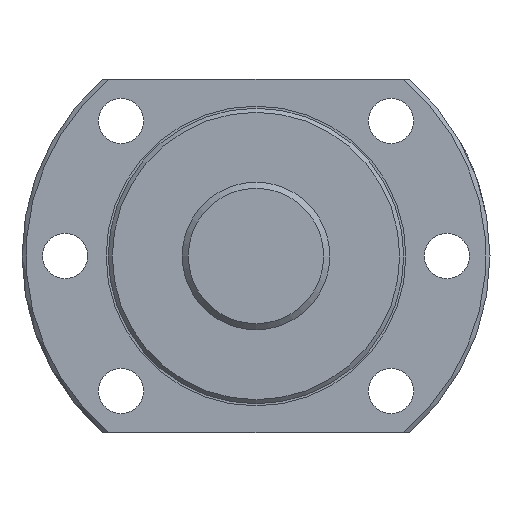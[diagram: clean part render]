
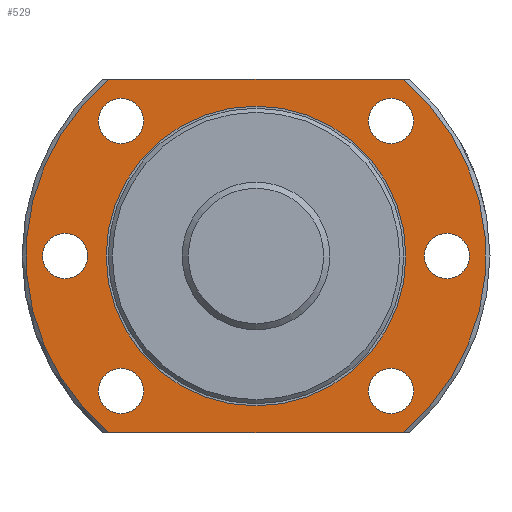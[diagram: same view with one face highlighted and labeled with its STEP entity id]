
A CAD part, left-side view. The second image highlights one B-rep face of the part: STEP entity #529.
In plain terms, the highlighted planar face has unit normal (-1, 0, 0).
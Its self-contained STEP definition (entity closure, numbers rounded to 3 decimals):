
#34=LINE('',#965,#42);
#35=LINE('',#966,#43);
#42=VECTOR('',#767,1000.);
#43=VECTOR('',#768,1000.);
#146=ORIENTED_EDGE('',*,*,#240,.T.);
#147=ORIENTED_EDGE('',*,*,#241,.T.);
#148=ORIENTED_EDGE('',*,*,#242,.F.);
#149=ORIENTED_EDGE('',*,*,#214,.F.);
#150=ORIENTED_EDGE('',*,*,#243,.F.);
#151=ORIENTED_EDGE('',*,*,#238,.F.);
#152=ORIENTED_EDGE('',*,*,#244,.T.);
#153=ORIENTED_EDGE('',*,*,#245,.T.);
#154=ORIENTED_EDGE('',*,*,#246,.T.);
#155=ORIENTED_EDGE('',*,*,#247,.T.);
#156=ORIENTED_EDGE('',*,*,#248,.T.);
#214=EDGE_CURVE('',#269,#268,#312,.T.);
#238=EDGE_CURVE('',#289,#290,#331,.T.);
#240=EDGE_CURVE('',#291,#291,#332,.T.);
#241=EDGE_CURVE('',#292,#292,#333,.F.);
#242=EDGE_CURVE('',#268,#289,#34,.T.);
#243=EDGE_CURVE('',#290,#269,#35,.T.);
#244=EDGE_CURVE('',#293,#293,#334,.T.);
#245=EDGE_CURVE('',#294,#294,#335,.T.);
#246=EDGE_CURVE('',#295,#295,#336,.T.);
#247=EDGE_CURVE('',#296,#296,#337,.T.);
#248=EDGE_CURVE('',#297,#297,#338,.T.);
#268=VERTEX_POINT('',#882);
#269=VERTEX_POINT('',#887);
#289=VERTEX_POINT('',#953);
#290=VERTEX_POINT('',#955);
#291=VERTEX_POINT('',#962);
#292=VERTEX_POINT('',#964);
#293=VERTEX_POINT('',#968);
#294=VERTEX_POINT('',#970);
#295=VERTEX_POINT('',#972);
#296=VERTEX_POINT('',#974);
#297=VERTEX_POINT('',#976);
#312=CIRCLE('',#589,56.);
#331=CIRCLE('',#621,56.);
#332=CIRCLE('',#623,36.5);
#333=CIRCLE('',#624,5.5);
#334=CIRCLE('',#625,5.5);
#335=CIRCLE('',#626,5.5);
#336=CIRCLE('',#627,5.5);
#337=CIRCLE('',#628,5.5);
#338=CIRCLE('',#629,5.5);
#386=EDGE_LOOP('',(#146));
#387=EDGE_LOOP('',(#147));
#388=EDGE_LOOP('',(#148,#149,#150,#151));
#389=EDGE_LOOP('',(#152));
#390=EDGE_LOOP('',(#153));
#391=EDGE_LOOP('',(#154));
#392=EDGE_LOOP('',(#155));
#393=EDGE_LOOP('',(#156));
#462=FACE_BOUND('',#386,.T.);
#463=FACE_BOUND('',#387,.T.);
#464=FACE_BOUND('',#388,.T.);
#465=FACE_BOUND('',#389,.T.);
#466=FACE_BOUND('',#390,.T.);
#467=FACE_BOUND('',#391,.T.);
#468=FACE_BOUND('',#392,.T.);
#469=FACE_BOUND('',#393,.T.);
#503=PLANE('',#622);
#529=ADVANCED_FACE('',(#462,#463,#464,#465,#466,#467,#468,#469),#503,.T.);
#589=AXIS2_PLACEMENT_3D('',#888,#693,#694);
#621=AXIS2_PLACEMENT_3D('',#954,#759,#760);
#622=AXIS2_PLACEMENT_3D('',#960,#761,#762);
#623=AXIS2_PLACEMENT_3D('',#961,#763,#764);
#624=AXIS2_PLACEMENT_3D('',#963,#765,#766);
#625=AXIS2_PLACEMENT_3D('',#967,#769,#770);
#626=AXIS2_PLACEMENT_3D('',#969,#771,#772);
#627=AXIS2_PLACEMENT_3D('',#971,#773,#774);
#628=AXIS2_PLACEMENT_3D('',#973,#775,#776);
#629=AXIS2_PLACEMENT_3D('',#975,#777,#778);
#693=DIRECTION('',(1.,0.,0.));
#694=DIRECTION('',(0.,0.,-1.));
#759=DIRECTION('',(1.,0.,0.));
#760=DIRECTION('',(0.,0.,-1.));
#761=DIRECTION('',(-1.,0.,0.));
#762=DIRECTION('',(0.,0.,1.));
#763=DIRECTION('',(1.,0.,0.));
#764=DIRECTION('',(0.,0.,-1.));
#765=DIRECTION('',(-1.,0.,0.));
#766=DIRECTION('',(0.,0.,1.));
#767=DIRECTION('',(0.,1.,0.));
#768=DIRECTION('',(0.,-1.,0.));
#769=DIRECTION('',(1.,0.,0.));
#770=DIRECTION('',(0.,0.,-1.));
#771=DIRECTION('',(1.,0.,0.));
#772=DIRECTION('',(0.,0.,-1.));
#773=DIRECTION('',(1.,0.,0.));
#774=DIRECTION('',(0.,0.,-1.));
#775=DIRECTION('',(1.,0.,0.));
#776=DIRECTION('',(0.,0.,-1.));
#777=DIRECTION('',(1.,0.,0.));
#778=DIRECTION('',(0.,0.,-1.));
#882=CARTESIAN_POINT('',(11.,-35.875,-43.));
#887=CARTESIAN_POINT('',(11.,-35.875,43.));
#888=CARTESIAN_POINT('',(11.,0.,0.));
#953=CARTESIAN_POINT('',(11.,35.875,-43.));
#954=CARTESIAN_POINT('',(11.,0.,0.));
#955=CARTESIAN_POINT('',(11.,35.875,43.));
#960=CARTESIAN_POINT('',(11.,56.,0.));
#961=CARTESIAN_POINT('',(11.,0.,0.));
#962=CARTESIAN_POINT('',(11.,0.,-36.5));
#963=CARTESIAN_POINT('',(11.,46.5,0.));
#964=CARTESIAN_POINT('',(11.,46.5,5.5));
#965=CARTESIAN_POINT('',(11.,56.,-43.));
#966=CARTESIAN_POINT('',(11.,56.,43.));
#967=CARTESIAN_POINT('',(11.,32.88,-32.88));
#968=CARTESIAN_POINT('',(11.,32.88,-38.38));
#969=CARTESIAN_POINT('',(11.,-32.88,-32.88));
#970=CARTESIAN_POINT('',(11.,-32.88,-38.38));
#971=CARTESIAN_POINT('',(11.,-46.5,0.));
#972=CARTESIAN_POINT('',(11.,-46.5,-5.5));
#973=CARTESIAN_POINT('',(11.,-32.88,32.88));
#974=CARTESIAN_POINT('',(11.,-32.88,27.38));
#975=CARTESIAN_POINT('',(11.,32.88,32.88));
#976=CARTESIAN_POINT('',(11.,32.88,27.38));
